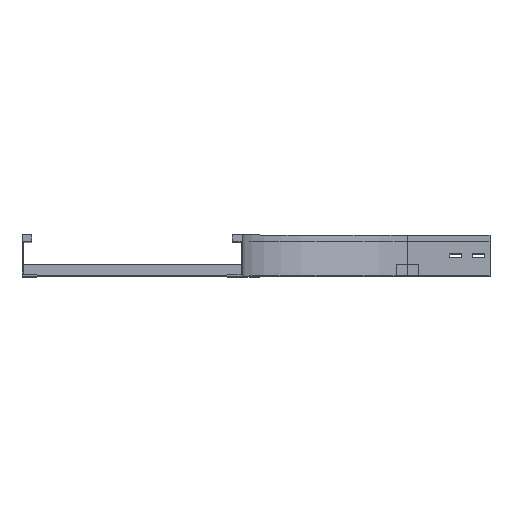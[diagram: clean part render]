
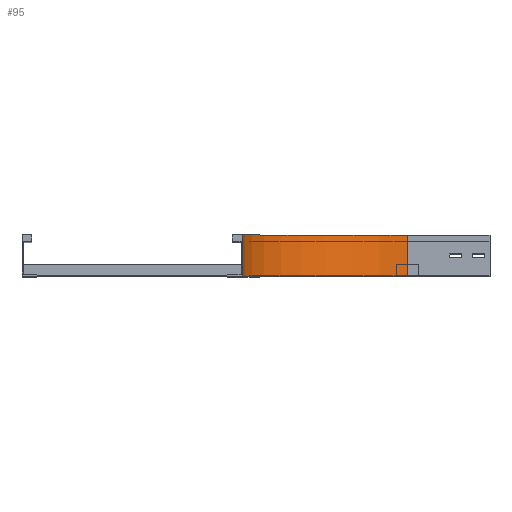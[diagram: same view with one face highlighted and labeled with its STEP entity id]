
A CAD part, top view. The second image highlights one B-rep face of the part: STEP entity #95.
In plain terms, the highlighted cylindrical face has radius 300 mm (diameter 600 mm), a partial arc.
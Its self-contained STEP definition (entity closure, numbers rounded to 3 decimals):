
#95 = ADVANCED_FACE ( 'NONE', ( #2362 ), #281, .F. ) ;
#141 = DIRECTION ( 'NONE',  ( -1., 0., 0. ) ) ;
#164 = CARTESIAN_POINT ( 'NONE',  ( 300., 0., -150. ) ) ;
#252 = VERTEX_POINT ( 'NONE', #925 ) ;
#281 = CYLINDRICAL_SURFACE ( 'NONE', #754, 300. ) ;
#452 = AXIS2_PLACEMENT_3D ( 'NONE', #2389, #1245, #566 ) ;
#566 = DIRECTION ( 'NONE',  ( -1., 0., 0. ) ) ;
#607 = EDGE_CURVE ( 'NONE', #2067, #1359, #646, .T. ) ;
#608 = ORIENTED_EDGE ( 'NONE', *, *, #1070, .T. ) ;
#646 = LINE ( 'NONE', #3635, #1205 ) ;
#754 = AXIS2_PLACEMENT_3D ( 'NONE', #865, #1497, #3183 ) ;
#865 = CARTESIAN_POINT ( 'NONE',  ( 300., 0., -150. ) ) ;
#890 = CARTESIAN_POINT ( 'NONE',  ( 0., 75., -150. ) ) ;
#895 = CIRCLE ( 'NONE', #3765, 300. ) ;
#925 = CARTESIAN_POINT ( 'NONE',  ( 0., 0., -150. ) ) ;
#1000 = DIRECTION ( 'NONE',  ( 0., -1., 0. ) ) ;
#1070 = EDGE_CURVE ( 'NONE', #252, #2067, #895, .T. ) ;
#1174 = ORIENTED_EDGE ( 'NONE', *, *, #607, .T. ) ;
#1205 = VECTOR ( 'NONE', #3613, 1000. ) ;
#1245 = DIRECTION ( 'NONE',  ( 0., -1., 0. ) ) ;
#1359 = VERTEX_POINT ( 'NONE', #2115 ) ;
#1416 = CARTESIAN_POINT ( 'NONE',  ( 300., 0., -450. ) ) ;
#1497 = DIRECTION ( 'NONE',  ( 0., -1., 0. ) ) ;
#1748 = ORIENTED_EDGE ( 'NONE', *, *, #2395, .F. ) ;
#1878 = EDGE_LOOP ( 'NONE', ( #2315, #1748, #608, #1174 ) ) ;
#1971 = CIRCLE ( 'NONE', #452, 300. ) ;
#2067 = VERTEX_POINT ( 'NONE', #1416 ) ;
#2115 = CARTESIAN_POINT ( 'NONE',  ( 300., 75., -450. ) ) ;
#2315 = ORIENTED_EDGE ( 'NONE', *, *, #3612, .F. ) ;
#2362 = FACE_OUTER_BOUND ( 'NONE', #1878, .T. ) ;
#2370 = LINE ( 'NONE', #3308, #2861 ) ;
#2389 = CARTESIAN_POINT ( 'NONE',  ( 300., 75., -150. ) ) ;
#2395 = EDGE_CURVE ( 'NONE', #252, #2461, #2370, .T. ) ;
#2461 = VERTEX_POINT ( 'NONE', #890 ) ;
#2746 = DIRECTION ( 'NONE',  ( 0., 1., 0. ) ) ;
#2861 = VECTOR ( 'NONE', #2746, 1000. ) ;
#3183 = DIRECTION ( 'NONE',  ( 0., 0., -1. ) ) ;
#3308 = CARTESIAN_POINT ( 'NONE',  ( 0., 0., -150. ) ) ;
#3612 = EDGE_CURVE ( 'NONE', #2461, #1359, #1971, .T. ) ;
#3613 = DIRECTION ( 'NONE',  ( 0., 1., 0. ) ) ;
#3635 = CARTESIAN_POINT ( 'NONE',  ( 300., 0., -450. ) ) ;
#3765 = AXIS2_PLACEMENT_3D ( 'NONE', #164, #1000, #141 ) ;
